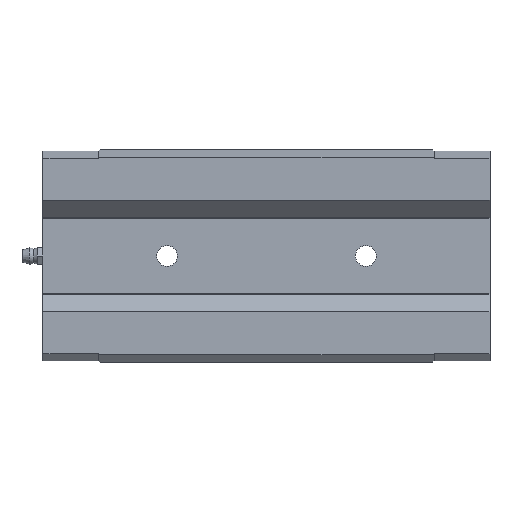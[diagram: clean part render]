
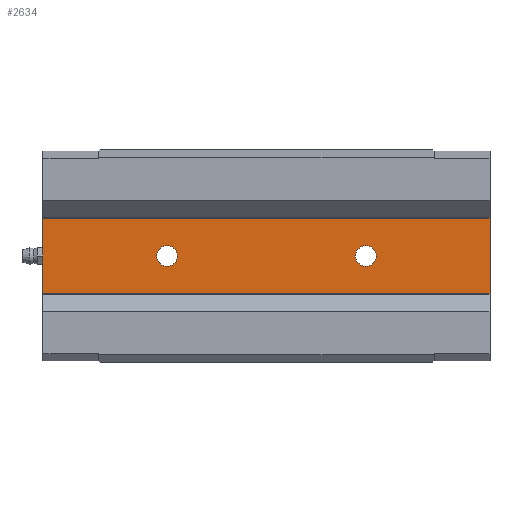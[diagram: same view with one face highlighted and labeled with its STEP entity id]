
A CAD part, front view. The second image highlights one B-rep face of the part: STEP entity #2634.
In plain terms, the highlighted planar face has unit normal (0, -1, 0).
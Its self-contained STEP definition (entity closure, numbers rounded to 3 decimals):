
#187=CIRCLE('',#2885,4.188);
#188=CIRCLE('',#2886,4.188);
#737=ORIENTED_EDGE('',*,*,#1208,.F.);
#738=ORIENTED_EDGE('',*,*,#1209,.F.);
#739=ORIENTED_EDGE('',*,*,#1034,.F.);
#740=ORIENTED_EDGE('',*,*,#1207,.F.);
#741=ORIENTED_EDGE('',*,*,#977,.T.);
#742=ORIENTED_EDGE('',*,*,#1210,.T.);
#977=EDGE_CURVE('',#1329,#1328,#1575,.T.);
#1034=EDGE_CURVE('',#1382,#1383,#1611,.T.);
#1207=EDGE_CURVE('',#1329,#1382,#1757,.T.);
#1208=EDGE_CURVE('',#1477,#1477,#187,.T.);
#1209=EDGE_CURVE('',#1478,#1478,#188,.T.);
#1210=EDGE_CURVE('',#1328,#1383,#1758,.T.);
#1328=VERTEX_POINT('',#3867);
#1329=VERTEX_POINT('',#3869);
#1382=VERTEX_POINT('',#3979);
#1383=VERTEX_POINT('',#3981);
#1477=VERTEX_POINT('',#4330);
#1478=VERTEX_POINT('',#4332);
#1575=LINE('',#3868,#1793);
#1611=LINE('',#3980,#1829);
#1757=LINE('',#4327,#1975);
#1758=LINE('',#4333,#1976);
#1793=VECTOR('',#3072,1000.);
#1829=VECTOR('',#3152,1000.);
#1975=VECTOR('',#3512,1000.);
#1976=VECTOR('',#3519,1000.);
#2089=EDGE_LOOP('',(#737));
#2090=EDGE_LOOP('',(#738));
#2091=EDGE_LOOP('',(#739,#740,#741,#742));
#2321=FACE_BOUND('',#2089,.T.);
#2322=FACE_BOUND('',#2090,.T.);
#2323=FACE_BOUND('',#2091,.T.);
#2521=PLANE('',#2884);
#2634=ADVANCED_FACE('',(#2321,#2322,#2323),#2521,.T.);
#2884=AXIS2_PLACEMENT_3D('',#4328,#3513,#3514);
#2885=AXIS2_PLACEMENT_3D('',#4329,#3515,#3516);
#2886=AXIS2_PLACEMENT_3D('',#4331,#3517,#3518);
#3072=DIRECTION('',(0.,0.,1.));
#3152=DIRECTION('',(0.,0.,1.));
#3512=DIRECTION('',(-1.,0.,0.));
#3513=DIRECTION('',(0.,-1.,0.));
#3514=DIRECTION('',(0.,0.,-1.));
#3515=DIRECTION('',(0.,-1.,0.));
#3516=DIRECTION('',(0.,0.,-1.));
#3517=DIRECTION('',(0.,-1.,0.));
#3518=DIRECTION('',(0.,0.,-1.));
#3519=DIRECTION('',(-1.,0.,0.));
#3867=CARTESIAN_POINT('',(90.,29.6,21.47));
#3868=CARTESIAN_POINT('',(90.,29.6,-21.47));
#3869=CARTESIAN_POINT('',(90.,29.6,-21.47));
#3979=CARTESIAN_POINT('',(-90.,29.6,-21.47));
#3980=CARTESIAN_POINT('',(-90.,29.6,-21.47));
#3981=CARTESIAN_POINT('',(-90.,29.6,21.47));
#4327=CARTESIAN_POINT('',(90.,29.6,-21.47));
#4328=CARTESIAN_POINT('',(90.,29.6,-21.47));
#4329=CARTESIAN_POINT('',(-40.,29.6,0.));
#4330=CARTESIAN_POINT('',(-40.,29.6,-4.188));
#4331=CARTESIAN_POINT('',(40.,29.6,0.));
#4332=CARTESIAN_POINT('',(40.,29.6,-4.188));
#4333=CARTESIAN_POINT('',(90.,29.6,21.47));
